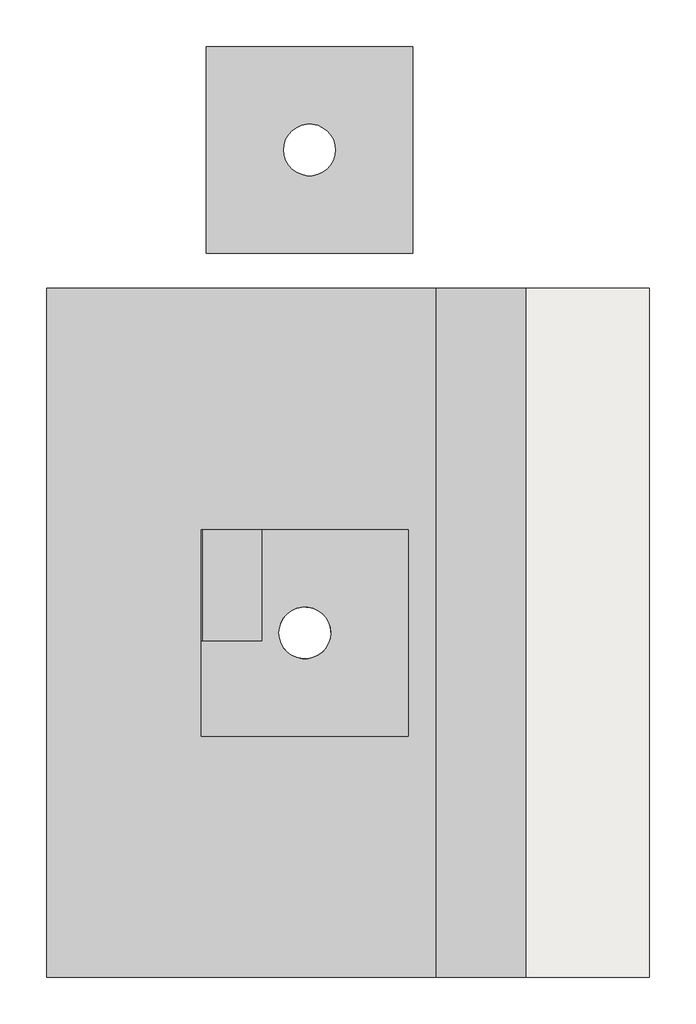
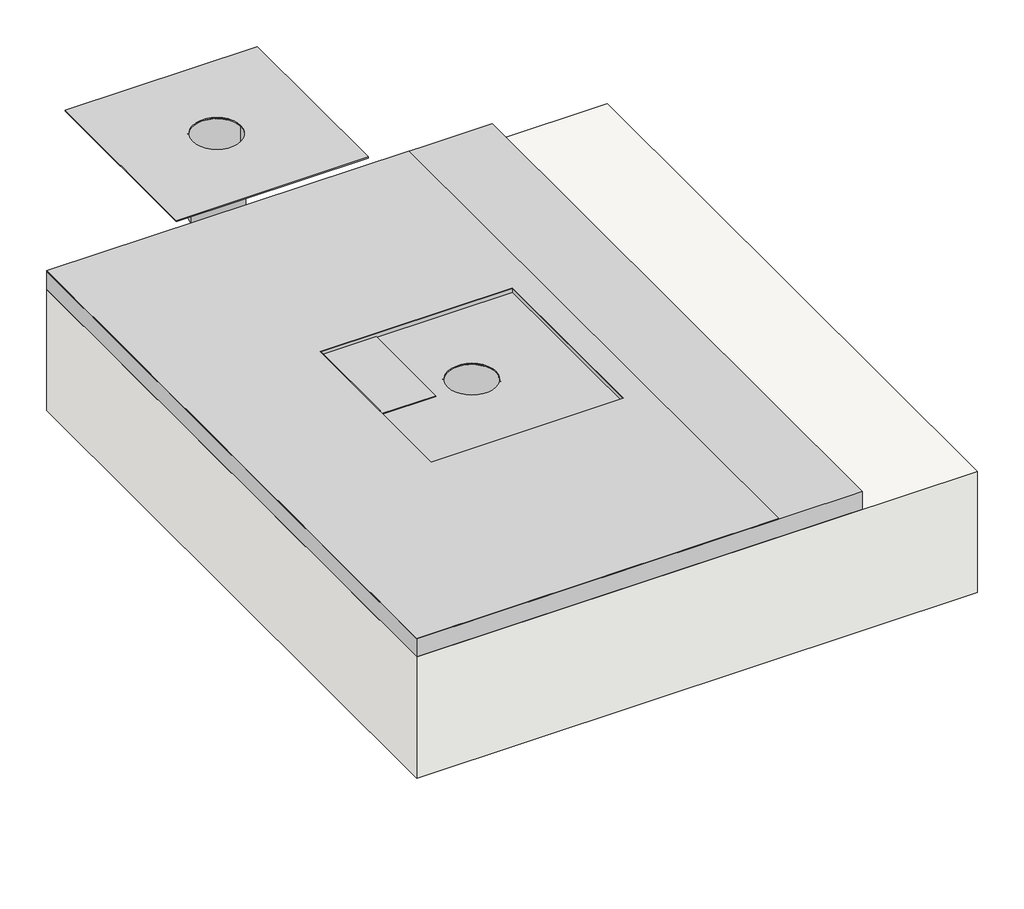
# One storey: 3 proxies, 1 slab.
"""IFC4 building model written with IfcOpenShell, lengths in millimetres."""

from ifc_helpers import new_model, si_unit, point, frame, frame_2d, origin, place, context, project, spatial, polyline, circle_curve, trimmed, segment, composite_curve, outline, extrude, transform, mapped, element, save
from components import generic_models_dc7dfd66, generic_models_6702cae9, entourage_f4fae19a

model = new_model("IFC4")

# Units and contexts
model_context = context("Model", 3, world=origin())
ifc_project = project(units=[si_unit("LENGTHUNIT", "METRE", prefix="MILLI")], contexts=[model_context])

# Site, building, storey
site = spatial("IfcSite", under=ifc_project)
building = spatial("IfcBuilding", under=site)
storey = spatial("IfcBuildingStorey", under=building, Name="ARQ Térreo", Elevation=-2.523798)

# Proxies
placement = place(None, origin())
generic_models_shape = generic_models_dc7dfd66(model_context)
element("IfcBuildingElementProxy", 1, Name="IMPER:IMPER:433934 : IMPER:IMPER:433934", ObjectType="IMPER:IMPER:433934 : IMPER:IMPER:433934", at=placement, inside=storey, context=model_context, shape_type="MappedRepresentation", body=[
    mapped(generic_models_shape, transform((0.0, 0.0, 0.0), x_axis=(1.0, 0.0, 0.0), y_axis=(0.0, 1.0, 0.0), z_axis=(0.0, 0.0, 1.0))),
])
generic_models_2_shape = generic_models_6702cae9(model_context)
element("IfcBuildingElementProxy", 2, Name="Modelos genéricos 1 : Modelos genéricos 1", ObjectType="Modelos genéricos 1 : Modelos genéricos 1", at=placement, inside=storey, context=model_context, shape_type="MappedRepresentation", body=[
    mapped(generic_models_2_shape, transform((0.0, 0.0, 0.0), x_axis=(1.0, 0.0, 0.0), y_axis=(0.0, 1.0, 0.0), z_axis=(0.0, 0.0, 1.0))),
])
entourage_shape = entourage_f4fae19a(model_context)
element("IfcBuildingElementProxy", 3, Name="Viaboc Ralo 75mm : Viaboc Ralo 75mm", ObjectType="Viaboc Ralo 75mm : Viaboc Ralo 75mm", at=placement, inside=storey, context=model_context, shape_type="MappedRepresentation", body=[
    mapped(entourage_shape, transform((929.5519189, -536.9387185, -2.523798), x_axis=(1.0, 0.0, 0.0), y_axis=(0.0, 1.0, 0.0), z_axis=(0.0, 0.0, 1.0))),
])

# Slab
element("IfcSlab", 4, ObjectType="Piso:LAJE CONCRETO", at=placement, inside=storey, context=model_context, shape_type="SweptSolid", body=[
    extrude(outline(polyline([(1422.8103968, -1738.0570215), (547.8103968, -1738.0570215), (547.8103968, -738.0570215), (1422.8103968, -738.0570215), (1422.8103968, -1738.0570215)]), holes=[composite_curve([segment(trimmed(circle_curve(frame_2d((922.8103968, -1238.0570215)), 42.0), [point((880.8103968, -1238.0570215))], [point((964.8103968, -1238.0570215))], True, "CARTESIAN"), True, "CONTINUOUS"), segment(trimmed(circle_curve(frame_2d((922.8103968, -1238.0570215)), 42.0), [point((964.8103968, -1238.0570215))], [point((880.8103968, -1238.0570215))], True, "CARTESIAN"), True, "CONTINUOUS")], self_intersect=False)]), frame((0.0, 0.0, -202.523798), z_axis=(0.0, 0.0, 1.0), x_axis=(1.0, 0.0, 0.0)), (0.0, 0.0, 1.0), 200.0),
])

save(model, "model.ifc")
